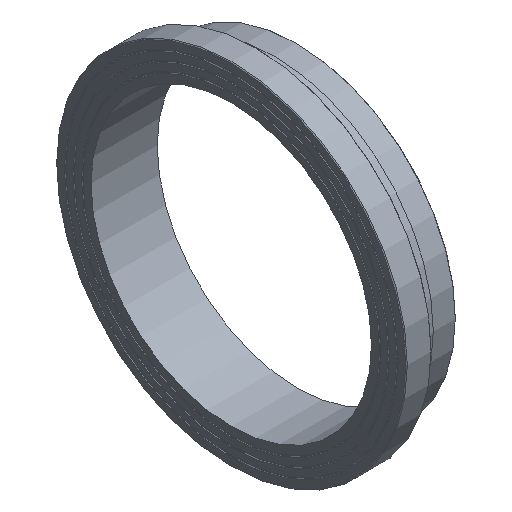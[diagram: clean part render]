
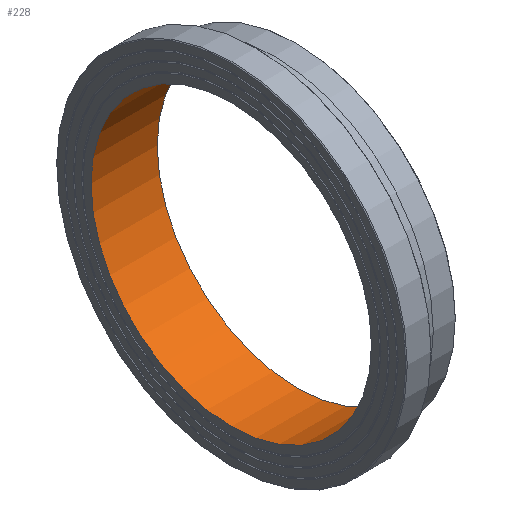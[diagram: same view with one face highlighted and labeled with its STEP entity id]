
A CAD part, isometric view. The second image highlights one B-rep face of the part: STEP entity #228.
In plain terms, the highlighted cylindrical face has radius 277.6 mm (diameter 555.2 mm), a full revolution.
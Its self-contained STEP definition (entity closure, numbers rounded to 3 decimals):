
#33=CYLINDRICAL_SURFACE('',#274,277.6);
#50=ORIENTED_EDGE('',*,*,#79,.F.);
#51=ORIENTED_EDGE('',*,*,#76,.T.);
#76=EDGE_CURVE('',#96,#96,#116,.T.);
#79=EDGE_CURVE('',#99,#99,#119,.T.);
#96=VERTEX_POINT('',#383);
#99=VERTEX_POINT('',#390);
#116=CIRCLE('',#257,277.6);
#119=CIRCLE('',#261,277.6);
#150=EDGE_LOOP('',(#50));
#151=EDGE_LOOP('',(#51));
#190=FACE_BOUND('',#150,.T.);
#191=FACE_BOUND('',#151,.T.);
#228=ADVANCED_FACE('',(#190,#191),#33,.F.);
#257=AXIS2_PLACEMENT_3D('',#382,#303,#304);
#261=AXIS2_PLACEMENT_3D('',#389,#311,#312);
#274=AXIS2_PLACEMENT_3D('',#410,#337,#338);
#303=DIRECTION('',(-1.,0.,0.));
#304=DIRECTION('',(0.,0.,1.));
#311=DIRECTION('',(-1.,0.,0.));
#312=DIRECTION('',(0.,0.,1.));
#337=DIRECTION('',(-1.,0.,0.));
#338=DIRECTION('',(0.,0.,1.));
#382=CARTESIAN_POINT('',(0.,0.,0.));
#383=CARTESIAN_POINT('',(0.,0.,277.6));
#389=CARTESIAN_POINT('',(131.,0.,0.));
#390=CARTESIAN_POINT('',(131.,0.,277.6));
#410=CARTESIAN_POINT('',(60.,0.,0.));
